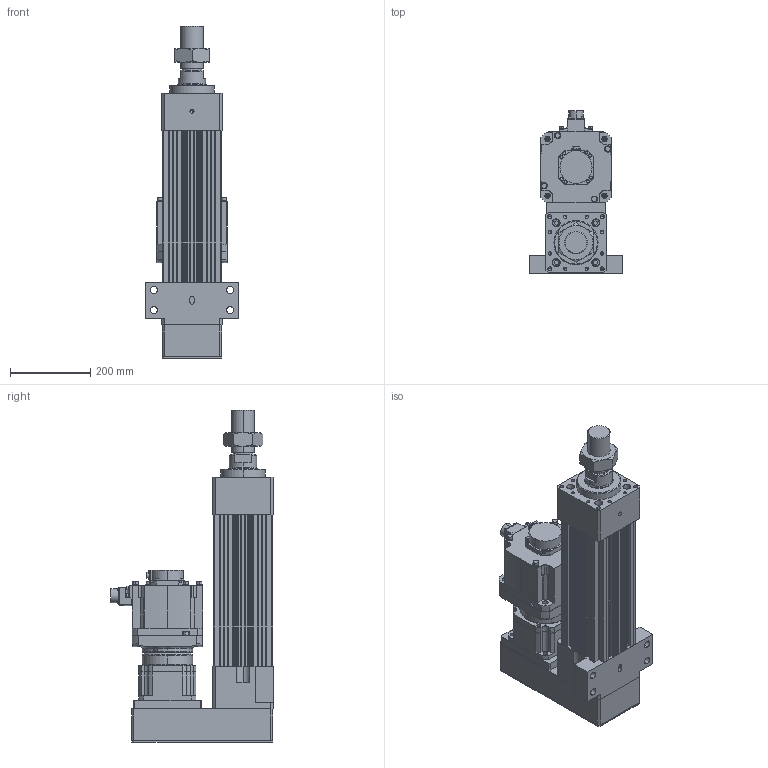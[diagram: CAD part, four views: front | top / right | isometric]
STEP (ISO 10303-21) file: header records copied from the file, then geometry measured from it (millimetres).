
FILE_DESCRIPTION (( 'STEP AP203' ), '1' );
FILE_NAME ('HES150NS(HS)-P100-W035G00-M-FFC.STEP', '2023-01-31T09:23:44', ( 'tms' ), ( '' ), 'SwSTEP 2.0', 'SolidWorks 2013', '' );
FILE_SCHEMA (( 'CONFIG_CONTROL_DESIGN' ));
Length unit declared in the file: millimetre
Products named in the file (9): P0403500801; P1301500001; HES150-P100-G142-FFC; HES150NS(HS)-P100-W035G00-M-FFC; M56X2.0P; HG-SR352; HES150 ROD M ST100; AB142-003[HG-SR352]; AB1421
Assembly tree (8 placements, depth 3):
  HES150NS(HS)-P100-W035G00-M-FFC
    HES150-P100-G142-FFC
    HES150 ROD M ST100
    M56X2.0P
    AB142-003[HG-SR352]
      AB1421
      P1301500001
      P0403500801
    HG-SR352
Bounding box: 230 x 403.85 x 826 mm (x, y, z)
Volume: 16054417.4 mm3; surface area: 1482437.2 mm2
Topology: 4 solids, 18 shells, 1470 faces, 3831 edges, 2471 vertices
Faces by surface type: cylinder 693, plane 529, cone 166, bspline 76, torus 6
Entity records: 53945 total; most frequent: CARTESIAN_POINT 16549, DIRECTION 7839, ORIENTED_EDGE 7520, EDGE_CURVE 3782, AXIS2_PLACEMENT_3D 2986, VERTEX_POINT 2471, LINE 1867, VECTOR 1867
